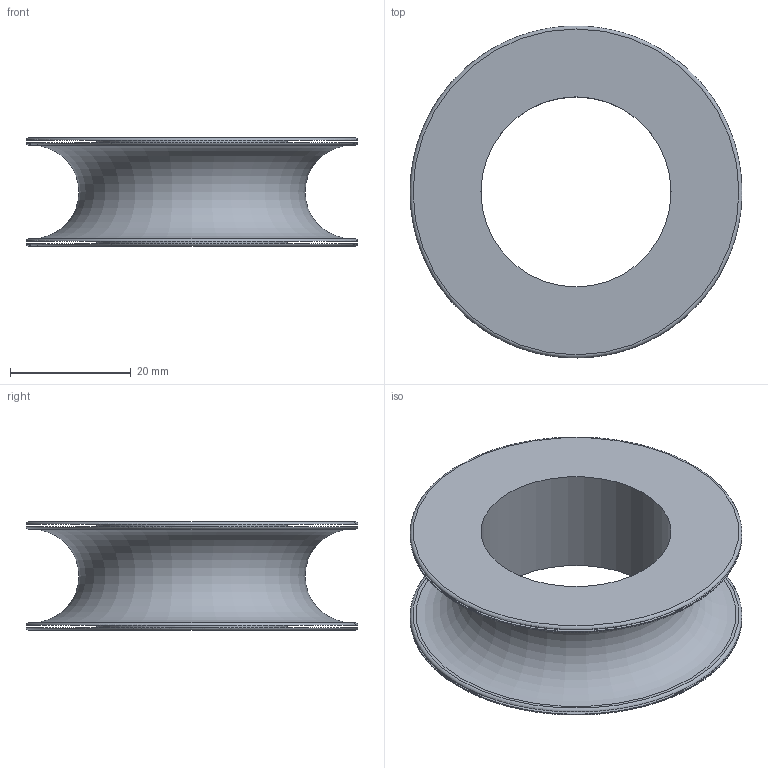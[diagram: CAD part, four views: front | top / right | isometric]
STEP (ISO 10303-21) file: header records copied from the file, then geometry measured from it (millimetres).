
FILE_DESCRIPTION(/* description */ (''),/* implementation_level */ '2;1');
FILE_NAME(/* name */ 'Component2.step',/* time_stamp */ '2026-02-25T21:59:41-08:00',/* author */ (''),/* organization */ (''),/* preprocessor_version */ 'ST-DEVELOPER v20.1',/* originating_system */ 'Autodesk Translation Framework v14.24.0.0',/* authorisation */ '');
FILE_SCHEMA (('AUTOMOTIVE_DESIGN { 1 0 10303 214 3 1 1 }'));
Length unit declared in the file: millimetre
Products named in the file (1): FusionComponent
Bounding box: 54.98 x 54.98 x 18 mm (x, y, z)
Volume: 12789.3 mm3; surface area: 8950.7 mm2
Topology: 1 solids, 1 shells, 12 faces, 28 edges, 18 vertices
Faces by surface type: torus 5, plane 4, sphere 2, cylinder 1
Full cylindrical faces by diameter (mm): 31.5 x1
Entity records: 376 total; most frequent: DIRECTION 73, CARTESIAN_POINT 55, ORIENTED_EDGE 48, AXIS2_PLACEMENT_3D 36, EDGE_CURVE 24, CIRCLE 23, EDGE_LOOP 18, VERTEX_POINT 18
